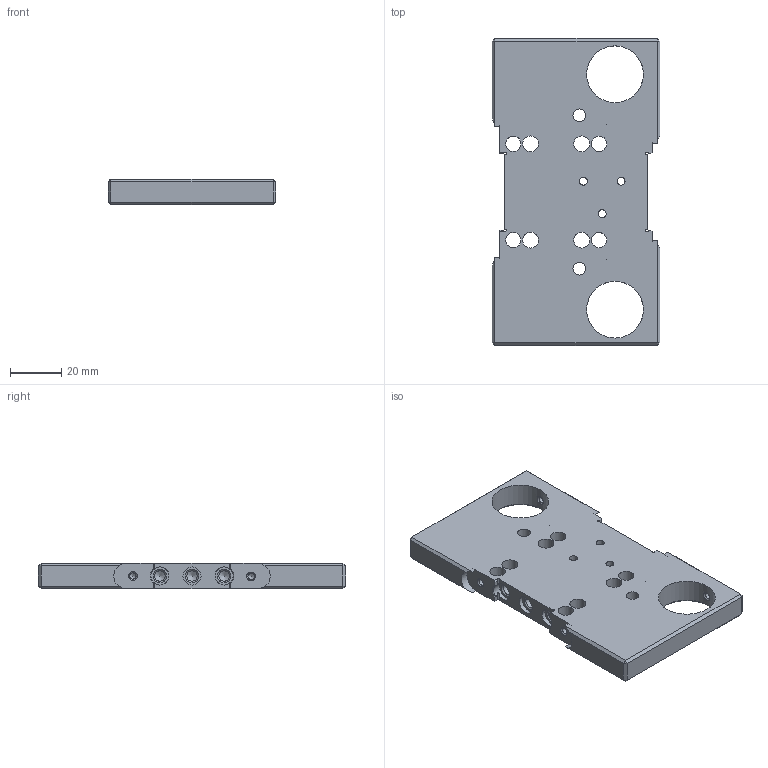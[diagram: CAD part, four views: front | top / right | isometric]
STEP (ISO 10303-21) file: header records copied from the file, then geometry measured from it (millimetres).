
FILE_DESCRIPTION(/* description */ (''),/* implementation_level */ '2;1');
FILE_NAME(/* name */ 'D:\IN 制图\设备\手动剥线机带侧刀4.02\工程图\中板4.02.stp',/* time_stamp */ '2026-06-22T15:27:08+08:00',/* author */ ('ROG'),/* organization */ (''),/* preprocessor_version */ 'ST-DEVELOPER v19',/* originating_system */ 'Autodesk Inventor 2023',/* authorisation */ '');
FILE_SCHEMA (('AUTOMOTIVE_DESIGN { 1 0 10303 214 3 1 1 }'));
Length unit declared in the file: millimetre
Products named in the file (1): 中板
Bounding box: 65.5 x 120 x 10 mm (x, y, z)
Volume: 60483.7 mm3; surface area: 21892.6 mm2
Topology: 1 solids, 1 shells, 173 faces, 456 edges, 287 vertices
Faces by surface type: plane 73, cylinder 58, cone 40, bspline 2
Full cylindrical faces by diameter (mm): 2.459 x6, 3.1 x3, 3.242 x2, 4.134 x6, 4.917 x2, 6 x6, 6.2 x4, 7.1 x6, 9.5 x2, 12 x1, 13.6 x2, 22.2 x2
Entity records: 6048 total; most frequent: CARTESIAN_POINT 1530, DIRECTION 932, ORIENTED_EDGE 888, EDGE_CURVE 444, AXIS2_PLACEMENT_3D 351, VERTEX_POINT 287, LINE 230, VECTOR 230
